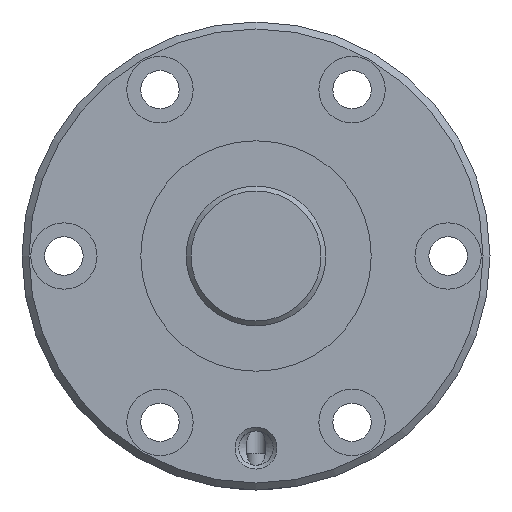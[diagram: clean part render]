
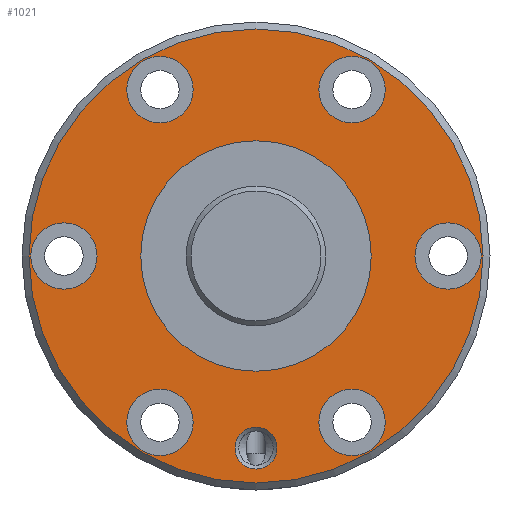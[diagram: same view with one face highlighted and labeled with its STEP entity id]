
A CAD part, left-side view. The second image highlights one B-rep face of the part: STEP entity #1021.
In plain terms, the highlighted planar face has unit normal (-1, 0, 0).
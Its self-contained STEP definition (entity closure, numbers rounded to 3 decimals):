
#162=ORIENTED_EDGE('',*,*,#385,.T.);
#163=ORIENTED_EDGE('',*,*,#386,.T.);
#164=ORIENTED_EDGE('',*,*,#387,.T.);
#165=ORIENTED_EDGE('',*,*,#388,.T.);
#166=ORIENTED_EDGE('',*,*,#389,.T.);
#167=ORIENTED_EDGE('',*,*,#390,.T.);
#168=ORIENTED_EDGE('',*,*,#391,.T.);
#169=ORIENTED_EDGE('',*,*,#392,.T.);
#170=ORIENTED_EDGE('',*,*,#384,.F.);
#384=EDGE_CURVE('',#499,#499,#593,.T.);
#385=EDGE_CURVE('',#500,#500,#594,.T.);
#386=EDGE_CURVE('',#501,#501,#595,.F.);
#387=EDGE_CURVE('',#502,#502,#596,.T.);
#388=EDGE_CURVE('',#503,#503,#597,.T.);
#389=EDGE_CURVE('',#504,#504,#598,.T.);
#390=EDGE_CURVE('',#505,#505,#599,.T.);
#391=EDGE_CURVE('',#506,#506,#600,.T.);
#392=EDGE_CURVE('',#507,#507,#601,.T.);
#499=VERTEX_POINT('',#1708);
#500=VERTEX_POINT('',#1711);
#501=VERTEX_POINT('',#1713);
#502=VERTEX_POINT('',#1715);
#503=VERTEX_POINT('',#1717);
#504=VERTEX_POINT('',#1719);
#505=VERTEX_POINT('',#1721);
#506=VERTEX_POINT('',#1723);
#507=VERTEX_POINT('',#1725);
#593=CIRCLE('',#1136,32.5);
#594=CIRCLE('',#1138,16.5);
#595=CIRCLE('',#1139,4.75);
#596=CIRCLE('',#1140,3.);
#597=CIRCLE('',#1141,4.75);
#598=CIRCLE('',#1142,4.75);
#599=CIRCLE('',#1143,4.75);
#600=CIRCLE('',#1144,4.75);
#601=CIRCLE('',#1145,4.75);
#682=EDGE_LOOP('',(#162));
#683=EDGE_LOOP('',(#163));
#684=EDGE_LOOP('',(#164));
#685=EDGE_LOOP('',(#165));
#686=EDGE_LOOP('',(#166));
#687=EDGE_LOOP('',(#167));
#688=EDGE_LOOP('',(#168));
#689=EDGE_LOOP('',(#169));
#690=EDGE_LOOP('',(#170));
#842=FACE_BOUND('',#682,.T.);
#843=FACE_BOUND('',#683,.T.);
#844=FACE_BOUND('',#684,.T.);
#845=FACE_BOUND('',#685,.T.);
#846=FACE_BOUND('',#686,.T.);
#847=FACE_BOUND('',#687,.T.);
#848=FACE_BOUND('',#688,.T.);
#849=FACE_BOUND('',#689,.T.);
#850=FACE_BOUND('',#690,.T.);
#984=PLANE('',#1137);
#1021=ADVANCED_FACE('',(#842,#843,#844,#845,#846,#847,#848,#849,#850),#984,
 .T.);
#1136=AXIS2_PLACEMENT_3D('',#1707,#1322,#1323);
#1137=AXIS2_PLACEMENT_3D('',#1709,#1324,#1325);
#1138=AXIS2_PLACEMENT_3D('',#1710,#1326,#1327);
#1139=AXIS2_PLACEMENT_3D('',#1712,#1328,#1329);
#1140=AXIS2_PLACEMENT_3D('',#1714,#1330,#1331);
#1141=AXIS2_PLACEMENT_3D('',#1716,#1332,#1333);
#1142=AXIS2_PLACEMENT_3D('',#1718,#1334,#1335);
#1143=AXIS2_PLACEMENT_3D('',#1720,#1336,#1337);
#1144=AXIS2_PLACEMENT_3D('',#1722,#1338,#1339);
#1145=AXIS2_PLACEMENT_3D('',#1724,#1340,#1341);
#1322=DIRECTION('',(1.,0.,0.));
#1323=DIRECTION('',(0.,0.,-1.));
#1324=DIRECTION('',(-1.,0.,0.));
#1325=DIRECTION('',(0.,0.,1.));
#1326=DIRECTION('',(1.,0.,0.));
#1327=DIRECTION('',(0.,0.,-1.));
#1328=DIRECTION('',(-1.,0.,0.));
#1329=DIRECTION('',(0.,0.,1.));
#1330=DIRECTION('',(1.,0.,0.));
#1331=DIRECTION('',(0.,0.,-1.));
#1332=DIRECTION('',(1.,0.,0.));
#1333=DIRECTION('',(0.,0.,-1.));
#1334=DIRECTION('',(1.,0.,0.));
#1335=DIRECTION('',(0.,0.,-1.));
#1336=DIRECTION('',(1.,0.,0.));
#1337=DIRECTION('',(0.,0.,-1.));
#1338=DIRECTION('',(1.,0.,0.));
#1339=DIRECTION('',(0.,0.,-1.));
#1340=DIRECTION('',(1.,0.,0.));
#1341=DIRECTION('',(0.,0.,-1.));
#1707=CARTESIAN_POINT('',(0.,0.,0.));
#1708=CARTESIAN_POINT('',(0.,0.,-32.5));
#1709=CARTESIAN_POINT('',(0.,32.5,0.));
#1710=CARTESIAN_POINT('',(0.,0.,0.));
#1711=CARTESIAN_POINT('',(0.,0.,-16.5));
#1712=CARTESIAN_POINT('',(0.,27.5,0.));
#1713=CARTESIAN_POINT('',(0.,27.5,4.75));
#1714=CARTESIAN_POINT('',(0.,0.,-27.5));
#1715=CARTESIAN_POINT('',(0.,0.,-30.5));
#1716=CARTESIAN_POINT('',(0.,-27.5,0.));
#1717=CARTESIAN_POINT('',(0.,-27.5,-4.75));
#1718=CARTESIAN_POINT('',(0.,13.75,23.816));
#1719=CARTESIAN_POINT('',(0.,13.75,19.066));
#1720=CARTESIAN_POINT('',(0.,-13.75,-23.816));
#1721=CARTESIAN_POINT('',(0.,-13.75,-28.566));
#1722=CARTESIAN_POINT('',(0.,-13.75,23.816));
#1723=CARTESIAN_POINT('',(0.,-13.75,19.066));
#1724=CARTESIAN_POINT('',(0.,13.75,-23.816));
#1725=CARTESIAN_POINT('',(0.,13.75,-28.566));
